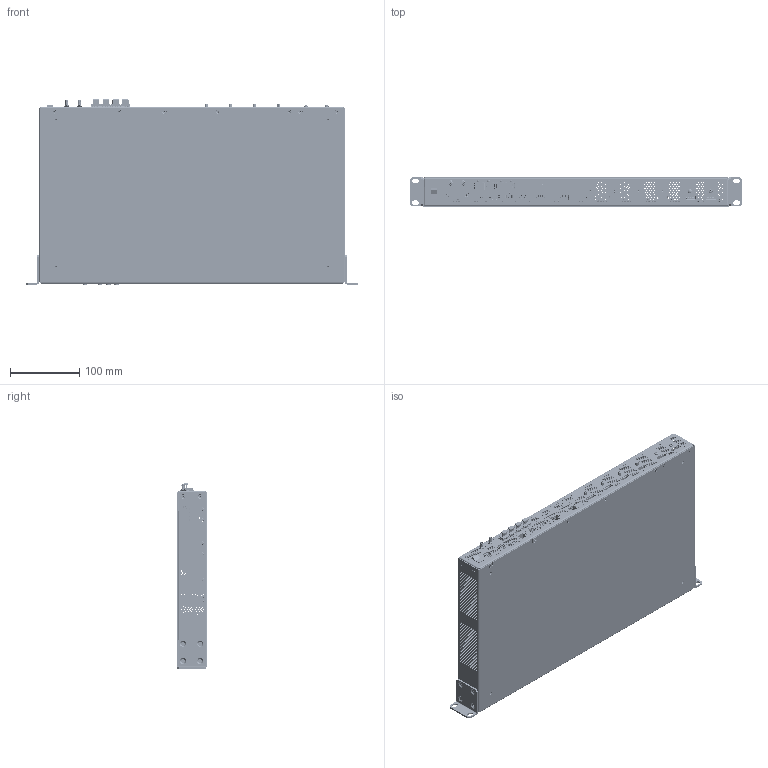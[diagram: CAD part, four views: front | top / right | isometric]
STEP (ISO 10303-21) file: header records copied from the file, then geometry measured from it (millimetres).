
FILE_DESCRIPTION (( 'STEP AP214' ), '1' );
FILE_NAME ('VC4-L-F Outline 021721.STEP', '2021-02-17T18:38:41', ( '' ), ( '' ), 'SwSTEP 2.0', 'SolidWorks 2019', '' );
FILE_SCHEMA (( 'AUTOMOTIVE_DESIGN' ));
Length unit declared in the file: millimetre
Products named in the file (49): 572-4739; 472721004 (display port); LiteOn LED LTST-S326KGJSKT_Green; 537-0168; VC4-L-F Outline 021721; 572-4733; Lightpipe VCC LFB025CTP; 572-4740; PEM BSO-3.5M3-6 ZI--N_PEM BSO-3.5M3-6 ZI--N; LiteOn LED LTST-S326KGJSKT_Amber; 205-0078; CTP-400-TH-09; ZIF (WERI 68712214022); HDBNC-J-P-XX-ST-EM1; HDMI- Molex 2086581002; SFP+ EMI cage Tyco c-2169260-1; Fiber cage cover (tyco c-1888901); c-0292304-01-b-3d (usb-b); 572-5291_FIBER OUT; LED, BLUE 160-0775_Off; 750 VDM_SHELL10G; APEM 7036WW-U620_Switched; 944-3027_SHELL; 944-3048_SHELL; 610-0553_D‚faut; PEM S-M4-1 ZI--N; bouton_mcrop_D‚faut; 801-0747; RJ45 (halo hfjp1-3003-s1l12)_Off; PD-40S (CUI); PEM BSO-3.5M3-8 ZI--N_PEM BSO-3.5M3-8 ZI--N; B18.6.7M - M3 x 0.5 x 6 Type I Cross Recessed PHMS --6N_B18.6.7M - M3 x 0.5 x 6 Type I Cross Recessed PHMS --6N; 944-3048 top090117; 944-3029; LiteOn LED LTST-S326KGJSKT; 437-2361; JAE DP1R020JQ3 (display port); 926-0115_D‚faut; PEM FH-M4-8 ZI--N; 572-4738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
Assembly tree (172 placements, depth 4):
  VC4-L-F Outline 021721
    750 VDM_SHELL10G
      944-3048_SHELL
        801-0743
        c-0292304-01-b-3d (usb-b)
        205-0078
        RJ45 (halo hfjp1-3003-s1l12)_Off  x2
        PD-40S (CUI)  x2
        CTP-400-TH-09
        APEM 7036WW-U620_Switched
        LiteOn LED LTST-S326KGJSKT
        875200010blf (USB-A 2.0)
      944-3027_SHELL
        801-0747
        472721004 (display port)
        LiteOn LED LTST-S326KGJSKT_Green  x4
        LiteOn LED LTST-S326KGJSKT_Amber
        LiteOn LED LTST-S326KGJSKT
        HDMI- Molex 2086581002  x4
        JAE DP1R020JQ3 (display port)  x2
      944-3029
        801-0754
        610-0553_D‚faut
        bouton_mcrop_D‚faut  x6
        LED, BLUE 160-0775_Off
        ZIF (WERI 68712214022)
      926-0115_D‚faut
      944-3148_shell
        801-0790_Luzon
        HDBNC-J-P-XX-ST-EM1  x2
        LiteOn LED LTST-S326KGJSKT  x6
        SFP+ EMI cage Tyco c-2169260-1
      572-4733
        572-4733
        PEM FH-M4-8 ZI--N  x3
        PEM BSO-3.5M3-8 ZI--N_PEM BSO-3.5M3-8 ZI--N  x24
        PEM S-M4-1 ZI--N  x4
        PEM BSO-3.5M3-6 ZI--N_PEM BSO-3.5M3-6 ZI--N  x7
        PEM S-M3-0 ZI--N_PEM S-M3-0 ZI--N  x15
      437-2361
        572-4738
        572-4739  x4
      572-4740  x2
      572-5291_FIBER OUT
        572-5291_FIBER OUT
        PEM S-M3-0 ZI--N_PEM S-M3-0 ZI--N  x17
      537-0168  x4
      B18.6.7M - M3 x 0.5 x 6 Type I Cross Recessed FHMS --6N BLK  x25
      B18.6.7M - M3 x 0.5 x 6 Type I Cross Recessed PHMS --6N_B18.6.7M - M3 x 0.5 x 6 Type I Cross Recessed PHMS --6N  x2
      Lightpipe VCC LFB025CTP  x4
      Fiber cage cover (tyco c-1888901)  x4
  944-3048 top090117
Bounding box: 480.76 x 43.76 x 268.08 mm (x, y, z)
Volume: 527788.9 mm3; surface area: 846137.3 mm2
Topology: 199 solids, 232 shells, 28906 faces, 80962 edges, 52467 vertices
Faces by surface type: plane 16951, cylinder 9759, bspline 1232, cone 735, torus 117, sphere 112
Entity records: 666772 total; most frequent: CARTESIAN_POINT 165396, ORIENTED_EDGE 92198, DIRECTION 83376, EDGE_CURVE 46099, VERTEX_POINT 30294, LINE 29532, VECTOR 29532, AXIS2_PLACEMENT_3D 26922
